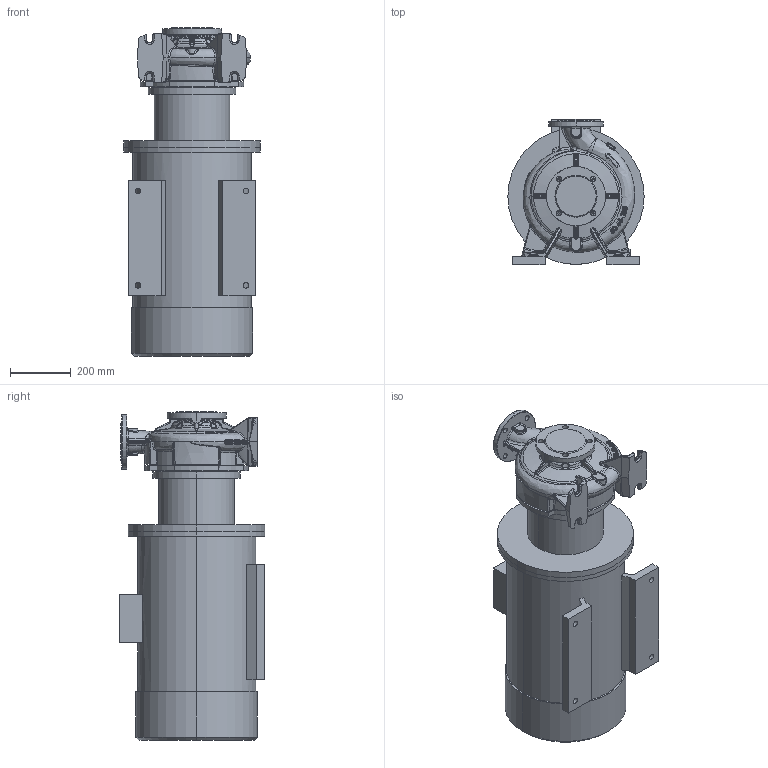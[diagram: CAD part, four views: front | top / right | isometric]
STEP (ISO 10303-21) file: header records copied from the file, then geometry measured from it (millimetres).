
FILE_DESCRIPTION (( 'STEP AP203' ), '1' );
FILE_NAME ('KRM 80-65-250-2-45.STEP', '2026-05-06T13:57:07', ( '' ), ( '' ), 'SwSTEP 2.0', 'SolidWorks 2016', '' );
FILE_SCHEMA (( 'CONFIG_CONTROL_DESIGN' ));
Products named in the file (1): KRM 80-65-250-2-45
Bounding box: 450 x 480 x 1085.8 mm (x, y, z)
Volume: 116729130.9 mm3; surface area: 2835972.3 mm2
Topology: 8 solids, 8 shells, 1125 faces, 2712 edges, 1615 vertices
Faces by surface type: bspline 507, cylinder 225, plane 214, torus 75, cone 67, sphere 37
Entity records: 93735 total; most frequent: CARTESIAN_POINT 71441, ORIENTED_EDGE 5374, DIRECTION 3647, EDGE_CURVE 2687, VERTEX_POINT 1615, AXIS2_PLACEMENT_3D 1512, EDGE_LOOP 1186, FACE_OUTER_BOUND 1125
